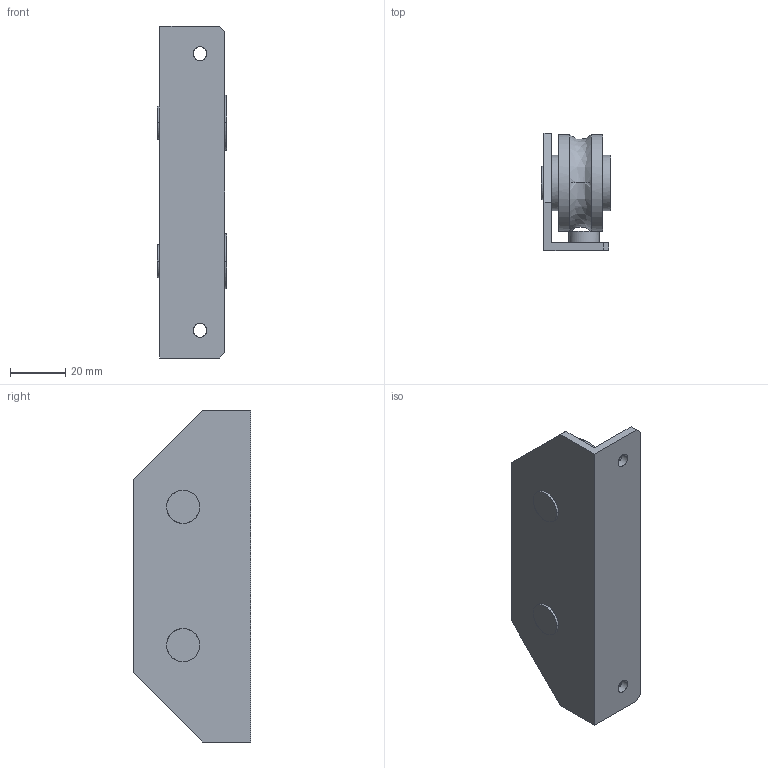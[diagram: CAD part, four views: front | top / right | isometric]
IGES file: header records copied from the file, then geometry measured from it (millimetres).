
Global section: file name: No Iges File Name specified; native system: AutoDesk Inventor R11.0; preprocessor: AutoDesk Inventor Iges Exporter R11.0; author: No Author specified; organization: No Organization specified; date: 20190426.192626; units: millimetre
Bounding box: 25.2 x 42.4 x 120 mm (x, y, z)
Surface area: 23745.8 mm2 (no closed solid volume)
Topology: 0 solids, 0 shells, 66 faces, 436 edges, 436 vertices
Faces by surface type: bspline 66
